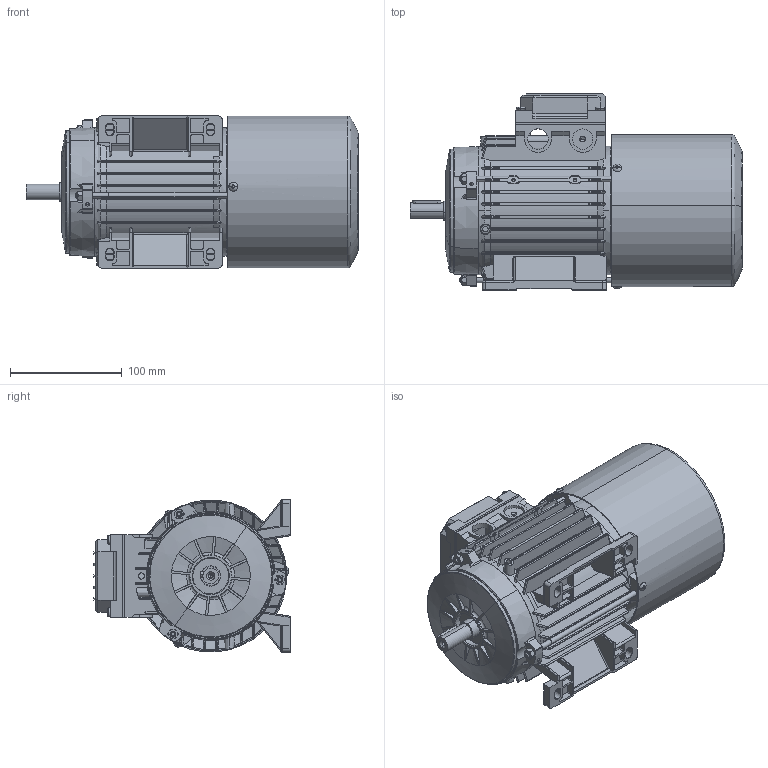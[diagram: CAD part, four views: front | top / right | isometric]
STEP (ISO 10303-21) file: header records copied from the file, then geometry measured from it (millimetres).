
FILE_DESCRIPTION (( 'STEP AP214' ), '1' );
FILE_NAME ('M14CA0010.STEP', '2018-12-10T11:30:51', ( '' ), ( '' ), 'SwSTEP 2.0', 'SolidWorks 2018', '' );
FILE_SCHEMA (( 'AUTOMOTIVE_DESIGN' ));
Length unit declared in the file: millimetre
Products named in the file (14): Scudo Lato Freno P1 BM 71 NT - DBCK0207; Scudo Lato Comando B3 BA-BM 71- DBAD0094; Coperchio per Scatola Singola 63-71-80 con viti; Guarnizione Scatola Singola 63-71-80; Vite per coperchio morsettiera; Coperchio per Scatola Singola 63-71-80 - DBAN0095; Dado M5; Vite testa rotonda M3; Tirante BM 71; Cuffia BM 71 - DBBK0097; Albero BM 71; Chiavetta 71; Carcassa 71 B3; M14CA0010
Assembly tree (22 placements, depth 3):
  M14CA0010
    Carcassa 71 B3
    Chiavetta 71
    Albero BM 71
    Cuffia BM 71 - DBBK0097
    Tirante BM 71  x3
    Vite testa rotonda M3  x3
    Dado M5  x3
    Coperchio per Scatola Singola 63-71-80 con viti
      Coperchio per Scatola Singola 63-71-80 - DBAN0095
      Vite per coperchio morsettiera  x4
      Guarnizione Scatola Singola 63-71-80
    Scudo Lato Comando B3 BA-BM 71- DBAD0094
    Scudo Lato Freno P1 BM 71 NT - DBCK0207
Bounding box: 297 x 175.5 x 136 mm (x, y, z)
Volume: 612625.3 mm3; surface area: 473798.3 mm2
Topology: 24 solids, 24 shells, 3024 faces, 8202 edges, 5183 vertices
Faces by surface type: cylinder 1055, plane 1025, torus 345, bspline 345, cone 244, sphere 10
Entity records: 97020 total; most frequent: CARTESIAN_POINT 32302, ORIENTED_EDGE 14320, DIRECTION 12263, EDGE_CURVE 7160, VERTEX_POINT 4613, AXIS2_PLACEMENT_3D 4542, LINE 3179, VECTOR 3179
